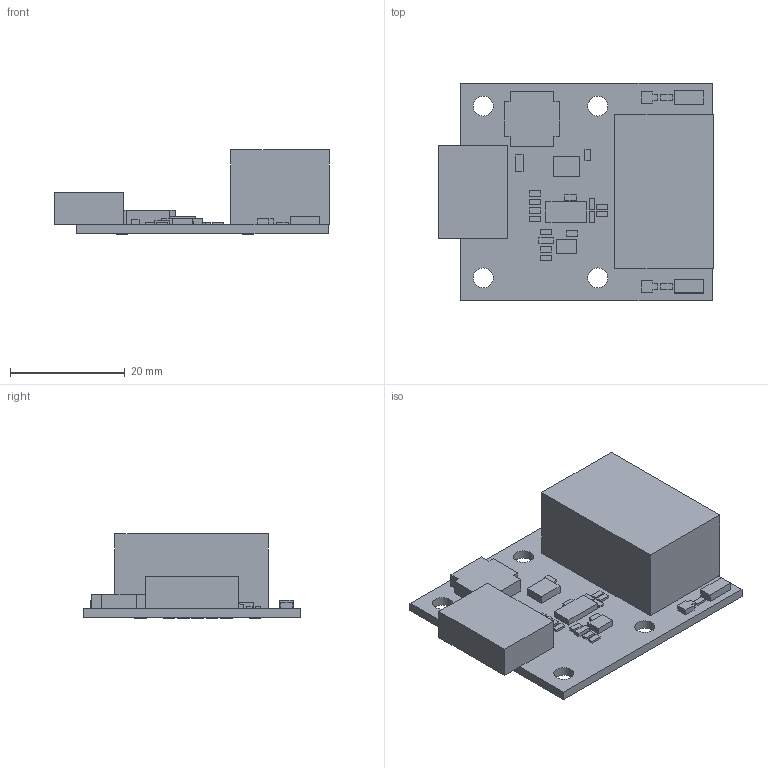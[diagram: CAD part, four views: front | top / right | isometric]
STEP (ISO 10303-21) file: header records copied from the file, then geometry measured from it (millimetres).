
FILE_DESCRIPTION(('FreeCAD Model'),'2;1');
FILE_NAME('Open CASCADE Shape Model','2024-02-07T12:12:12',(''),(''), 'Open CASCADE STEP processor 7.6','FreeCAD','Unknown');
FILE_SCHEMA(('AUTOMOTIVE_DESIGN { 1 0 10303 214 1 1 1 1 }'));
Length unit declared in the file: millimetre
Products named in the file (18): pc_rs485_01a_240206; Board_outline; Board_Geoms; EMP_Models; C1; C2; C4; CN1; D1; IC1; IC3; IC4; LD1; Q1; R1; SW1; TB1; TP1
Assembly tree (78 placements, depth 3):
  pc_rs485_01a_240206
    Board_outline
    Board_Geoms
      Board_outline
    EMP_Models
      C1  x2
      C2
      C4
      CN1
      D1
      IC1
      IC3
      IC4
      LD1  x2
      Q1  x2
      R1  x13
      SW1
      TB1
      TP1  x9
    C1  x2
    C2
    C4
    CN1
    D1
    IC1
    IC3
    IC4
    LD1  x2
    Q1  x2
    R1  x13
    SW1
    TB1
    TP1  x9
Bounding box: 47.9 x 38 x 14.7 mm (x, y, z)
Volume: 19972.4 mm3; surface area: 14355 mm2
Topology: 76 solids, 76 shells, 492 faces, 1020 edges, 680 vertices
Faces by surface type: plane 416, cylinder 76
Full cylindrical faces by diameter (mm): 1 x12, 1.3 x20, 3.5 x8
Entity records: 5004 total; most frequent: DIRECTION 712, CARTESIAN_POINT 649, ORIENTED_EDGE 540, EDGE_CURVE 270, AXIS2_PLACEMENT_3D 243, LINE 226, VECTOR 226, VERTEX_POINT 180
